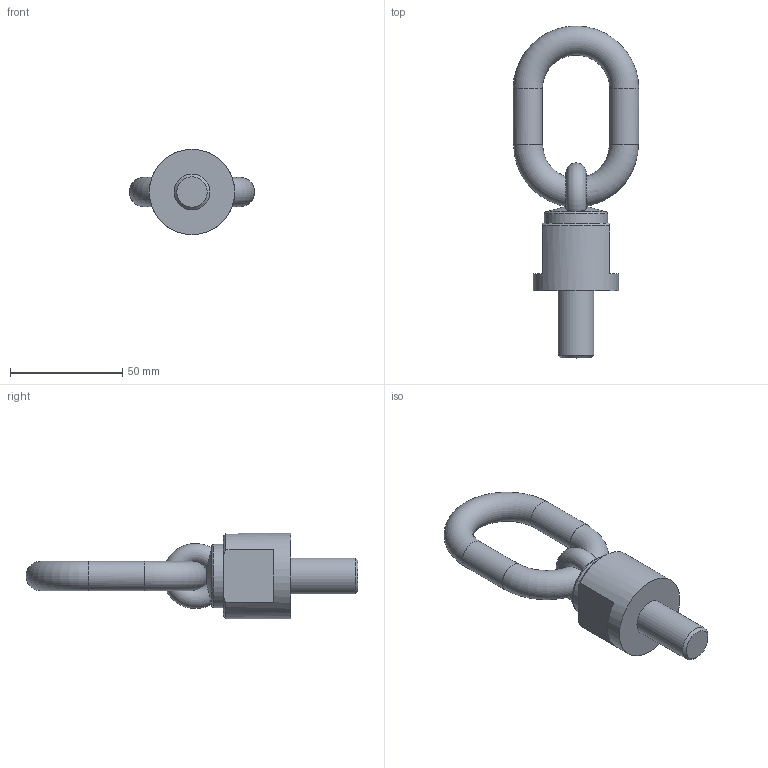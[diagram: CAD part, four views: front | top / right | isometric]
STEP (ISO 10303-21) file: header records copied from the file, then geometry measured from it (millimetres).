
FILE_DESCRIPTION( ( 'STEP AP203' ), '1' );
FILE_NAME( 'p:/temp/worker_5/temp/app_50_0201906261615165450602410e898ce_000000_00_00_000000/format_3/C8000101630.stp', '2019-06-26T14:15:19', ( '' ), ( '' ), ' ', 'PARTsolutions', ' ' );
FILE_SCHEMA( ( 'CONFIG_CONTROL_DESIGN' ) );
Length unit declared in the file: millimetre
Products named in the file (1): _C8000101630
Bounding box: 56 x 148 x 38 mm (x, y, z)
Volume: 68070.9 mm3; surface area: 15829.1 mm2
Topology: 1 solids, 1 shells, 25 faces, 65 edges, 40 vertices
Faces by surface type: plane 12, cylinder 5, torus 4, cone 4
Full cylindrical faces by diameter (mm): 13 x2, 16 x1, 28.2 x1, 38 x1
Entity records: 1022 total; most frequent: CARTESIAN_POINT 465, DIRECTION 110, ORIENTED_EDGE 86, AXIS2_PLACEMENT_3D 51, EDGE_CURVE 43, EDGE_LOOP 42, FACE_OUTER_BOUND 34, VERTEX_POINT 32
